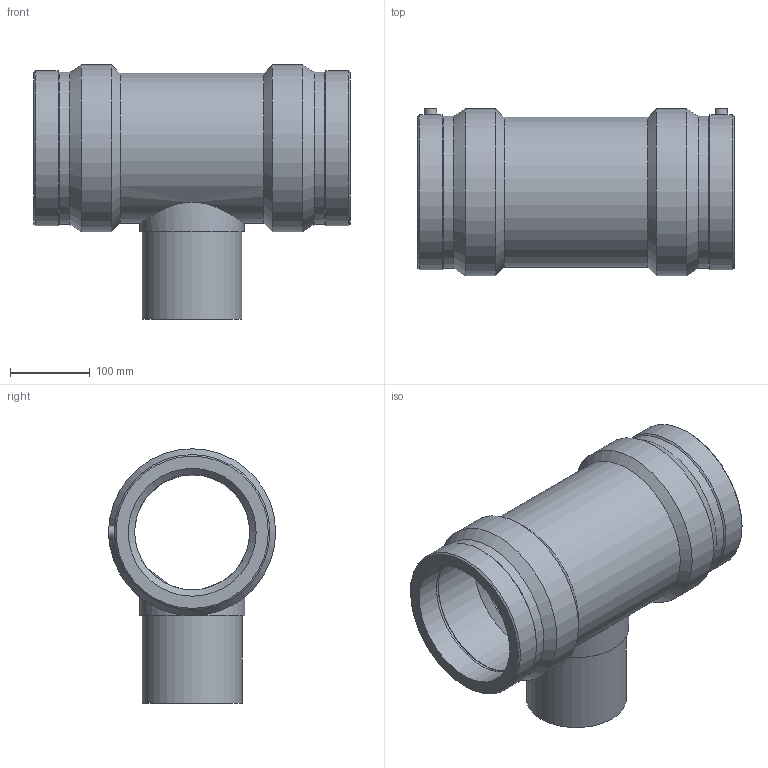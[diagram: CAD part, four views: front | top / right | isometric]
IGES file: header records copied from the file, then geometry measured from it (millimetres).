
Global section: file name: 491404160125.ipt; native system: Autodesk Inventor 2015; preprocessor: unknown; author: KIM; date: 20190909.112840; units: millimetre
Bounding box: 396 x 209.5 x 318.5 mm (x, y, z)
Volume: 5000971.6 mm3; surface area: 547149.5 mm2
Topology: 1 solids, 1 shells, 45 faces, 101 edges, 66 vertices
Faces by surface type: plane 12, revolution 12, cylinder 11, cone 10
Full cylindrical faces by diameter (mm): 4 x2, 125 x1, 131.25 x1, 188.1 x1, 190.483 x2, 194.37 x2, 209 x2
